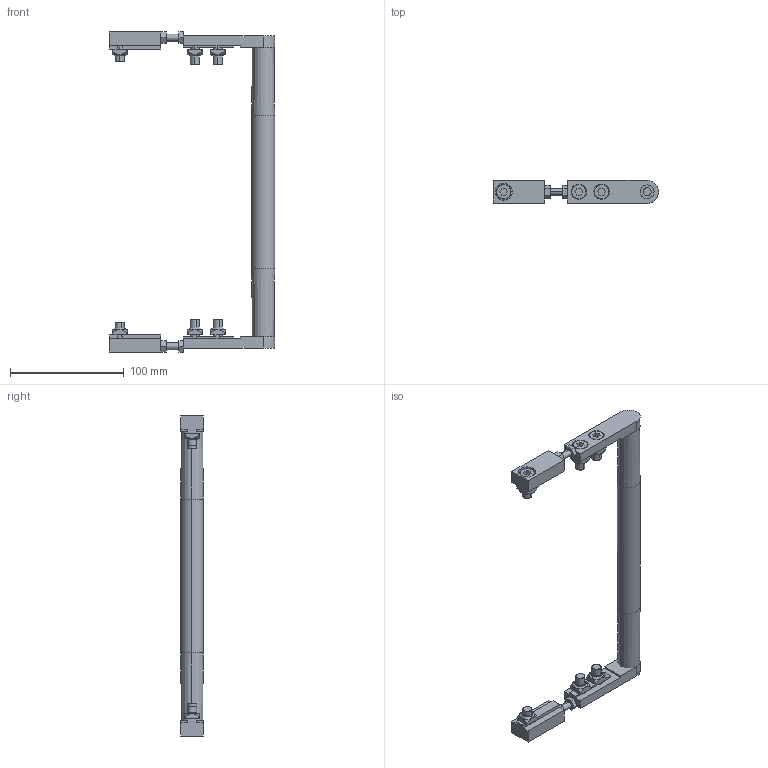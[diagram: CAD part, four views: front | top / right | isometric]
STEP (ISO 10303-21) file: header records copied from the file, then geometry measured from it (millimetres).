
FILE_DESCRIPTION (( 'STEP AP214' ), '1' );
FILE_NAME ('084.020.KI.250.STEP', '2018-12-06T13:12:17', ( '' ), ( '' ), 'SwSTEP 2.0', 'SolidWorks 2018', '' );
FILE_SCHEMA (( 'AUTOMOTIVE_DESIGN' ));
Length unit declared in the file: millimetre
Products named in the file (10): 084.800.034; 084.800.007; 084.302.000 DADI ALUSIC 13x13-1_084.302.004; 084.802.008; 084.800.008; Circlip DIN 471 - 8 x 0.8_Circlip DIN 471 - 8 x 0.8; 084.020.KI.250; 084.800.002; 084.800.012; 084.301.000 VITI ALUSIC_084.301.003
Assembly tree (27 placements, depth 2):
  084.020.KI.250
    084.802.008  x2
    084.301.000 VITI ALUSIC_084.301.003  x6
    084.302.000 DADI ALUSIC 13x13-1_084.302.004  x6
    084.800.034
    084.800.012  x4
    084.800.008  x2
    084.800.002  x2
    084.800.007  x2
    Circlip DIN 471 - 8 x 0.8_Circlip DIN 471 - 8 x 0.8  x2
Bounding box: 145 x 20 x 281 mm (x, y, z)
Volume: 111225.1 mm3; surface area: 70622.8 mm2
Topology: 31 solids, 31 shells, 664 faces, 1564 edges, 998 vertices
Faces by surface type: plane 262, cylinder 210, torus 112, cone 56, bspline 24
Entity records: 7452 total; most frequent: CARTESIAN_POINT 1561, DIRECTION 1208, ORIENTED_EDGE 1048, EDGE_CURVE 524, AXIS2_PLACEMENT_3D 474, VERTEX_POINT 337, VECTOR 260, LINE 260
